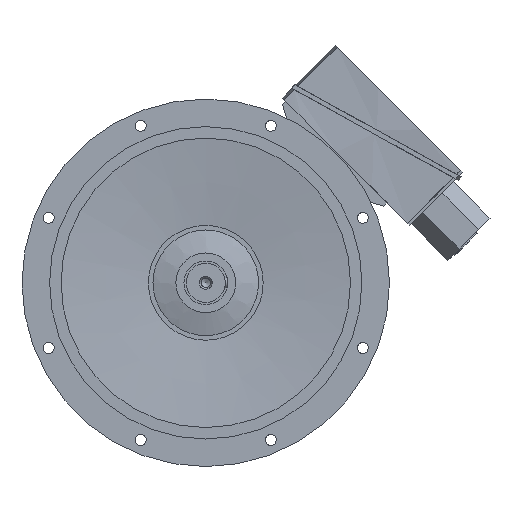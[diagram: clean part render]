
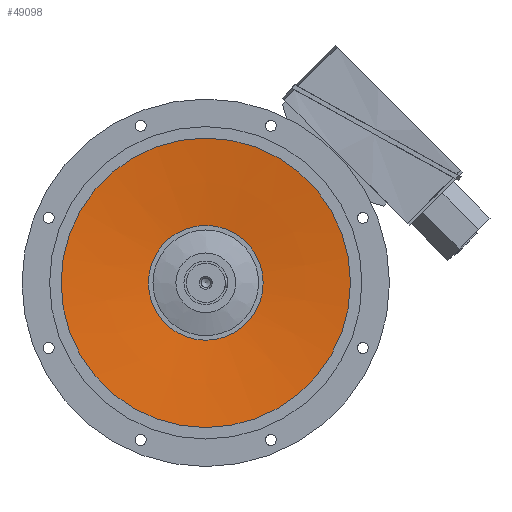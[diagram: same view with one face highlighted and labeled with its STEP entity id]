
A CAD part, left-side view. The second image highlights one B-rep face of the part: STEP entity #49098.
In plain terms, the highlighted conical face has half-angle 83.693 degrees and reference radius 315 mm.
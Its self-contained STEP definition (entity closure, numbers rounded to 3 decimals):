
#3675 = VERTEX_POINT ( 'NONE', #25884 ) ;
#6193 = DIRECTION ( 'NONE',  ( -1., 0., 0. ) ) ;
#6945 = EDGE_LOOP ( 'NONE', ( #43757 ) ) ;
#8280 = CARTESIAN_POINT ( 'NONE',  ( -70., 0., 0. ) ) ;
#12713 = DIRECTION ( 'NONE',  ( 0., 0., 1. ) ) ;
#15248 = EDGE_CURVE ( 'NONE', #28637, #28637, #34596, .T. ) ;
#17581 = EDGE_CURVE ( 'NONE', #3675, #3675, #25807, .T. ) ;
#19340 = DIRECTION ( 'NONE',  ( -1., 0., 0. ) ) ;
#25807 = CIRCLE ( 'NONE', #31040, 125. ) ;
#25884 = CARTESIAN_POINT ( 'NONE',  ( -70., 0., 125. ) ) ;
#28490 = CARTESIAN_POINT ( 'NONE',  ( -91., 0., 0. ) ) ;
#28637 = VERTEX_POINT ( 'NONE', #39094 ) ;
#28808 = ORIENTED_EDGE ( 'NONE', *, *, #17581, .F. ) ;
#30074 = CONICAL_SURFACE ( 'NONE', #38941, 315., 1.461 ) ;
#31040 = AXIS2_PLACEMENT_3D ( 'NONE', #8280, #39367, #12713 ) ;
#34596 = CIRCLE ( 'NONE', #56470, 315. ) ;
#35620 = FACE_BOUND ( 'NONE', #50645, .T. ) ;
#38941 = AXIS2_PLACEMENT_3D ( 'NONE', #28490, #6193, #46280 ) ;
#39094 = CARTESIAN_POINT ( 'NONE',  ( -91., 0., 315. ) ) ;
#39367 = DIRECTION ( 'NONE',  ( -1., 0., 0. ) ) ;
#43757 = ORIENTED_EDGE ( 'NONE', *, *, #15248, .T. ) ;
#45864 = CARTESIAN_POINT ( 'NONE',  ( -91., 0., 0. ) ) ;
#46280 = DIRECTION ( 'NONE',  ( 0., 0., 1. ) ) ;
#47364 = FACE_OUTER_BOUND ( 'NONE', #6945, .T. ) ;
#49098 = ADVANCED_FACE ( 'NONE', ( #47364, #35620 ), #30074, .F. ) ;
#50378 = DIRECTION ( 'NONE',  ( 0., 0., 1. ) ) ;
#50645 = EDGE_LOOP ( 'NONE', ( #28808 ) ) ;
#56470 = AXIS2_PLACEMENT_3D ( 'NONE', #45864, #19340, #50378 ) ;
